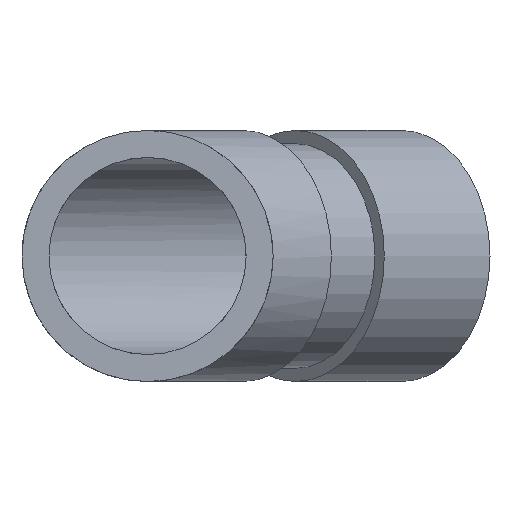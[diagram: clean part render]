
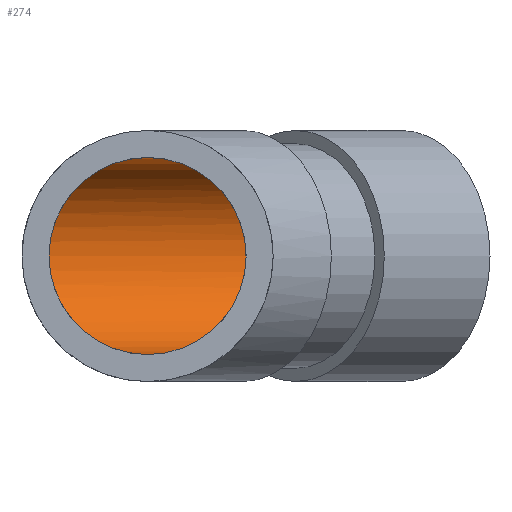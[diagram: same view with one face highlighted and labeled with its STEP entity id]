
A CAD part, front view. The second image highlights one B-rep face of the part: STEP entity #274.
In plain terms, the highlighted cylindrical face has radius 10.465 mm (diameter 20.93 mm), a full revolution.
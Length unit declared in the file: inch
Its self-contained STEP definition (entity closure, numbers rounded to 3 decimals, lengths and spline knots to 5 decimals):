
#45=ELLIPSE('',#322,0.44595,0.412);
#46=ELLIPSE('',#323,0.44595,0.412);
#47=ELLIPSE('',#324,0.44595,0.412);
#72=FACE_OUTER_BOUND('',#90,.T.);
#90=EDGE_LOOP('',(#219,#220,#221,#222,#223,#224));
#102=LINE('',#510,#110);
#110=VECTOR('',#413,0.412);
#128=CIRCLE('',#327,0.412);
#143=VERTEX_POINT('',#498);
#144=VERTEX_POINT('',#499);
#145=VERTEX_POINT('',#501);
#147=VERTEX_POINT('',#508);
#169=EDGE_CURVE('',#143,#144,#45,.T.);
#170=EDGE_CURVE('',#143,#145,#46,.T.);
#171=EDGE_CURVE('',#144,#145,#47,.T.);
#174=EDGE_CURVE('',#147,#147,#128,.T.);
#175=EDGE_CURVE('',#147,#144,#102,.T.);
#219=ORIENTED_EDGE('',*,*,#174,.F.);
#220=ORIENTED_EDGE('',*,*,#175,.T.);
#221=ORIENTED_EDGE('',*,*,#171,.T.);
#222=ORIENTED_EDGE('',*,*,#170,.F.);
#223=ORIENTED_EDGE('',*,*,#169,.T.);
#224=ORIENTED_EDGE('',*,*,#175,.F.);
#246=CYLINDRICAL_SURFACE('',#326,0.412);
#274=ADVANCED_FACE('',(#72),#246,.F.);
#322=AXIS2_PLACEMENT_3D('',#500,#400,#401);
#323=AXIS2_PLACEMENT_3D('',#502,#402,#403);
#324=AXIS2_PLACEMENT_3D('',#503,#404,#405);
#326=AXIS2_PLACEMENT_3D('',#507,#409,#410);
#327=AXIS2_PLACEMENT_3D('',#509,#411,#412);
#400=DIRECTION('center_axis',(-0.383,-0.924,0.));
#401=DIRECTION('ref_axis',(0.924,-0.383,0.));
#402=DIRECTION('center_axis',(0.383,0.924,0.));
#403=DIRECTION('ref_axis',(0.924,-0.383,0.));
#404=DIRECTION('center_axis',(-0.383,-0.924,0.));
#405=DIRECTION('ref_axis',(0.924,-0.383,0.));
#409=DIRECTION('center_axis',(-0.707,-0.707,0.));
#410=DIRECTION('ref_axis',(0.707,-0.707,0.));
#411=DIRECTION('center_axis',(-0.707,-0.707,0.));
#412=DIRECTION('ref_axis',(0.707,-0.707,0.));
#413=DIRECTION('',(-0.707,-0.707,0.));
#498=CARTESIAN_POINT('',(0.,0.,0.412));
#499=CARTESIAN_POINT('',(-0.412,0.17066,0.));
#500=CARTESIAN_POINT('Origin',(0.,0.,0.));
#501=CARTESIAN_POINT('',(0.,0.,-0.412));
#502=CARTESIAN_POINT('Origin',(0.,0.,0.));
#503=CARTESIAN_POINT('Origin',(0.,0.,0.));
#507=CARTESIAN_POINT('Origin',(1.06066,1.06066,0.));
#508=CARTESIAN_POINT('',(0.76933,1.35199,0.));
#509=CARTESIAN_POINT('Origin',(1.06066,1.06066,0.));
#510=CARTESIAN_POINT('',(0.76933,1.35199,0.));
